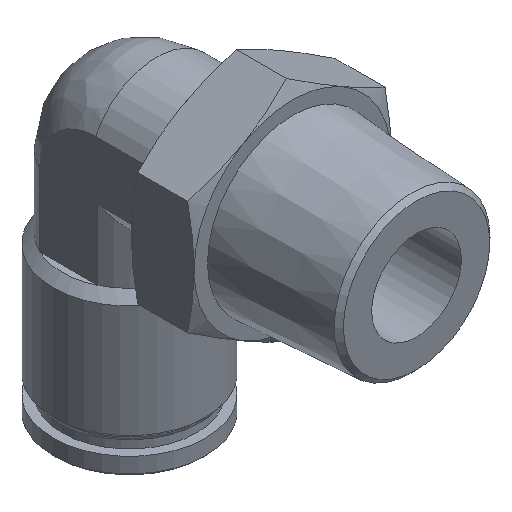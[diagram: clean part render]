
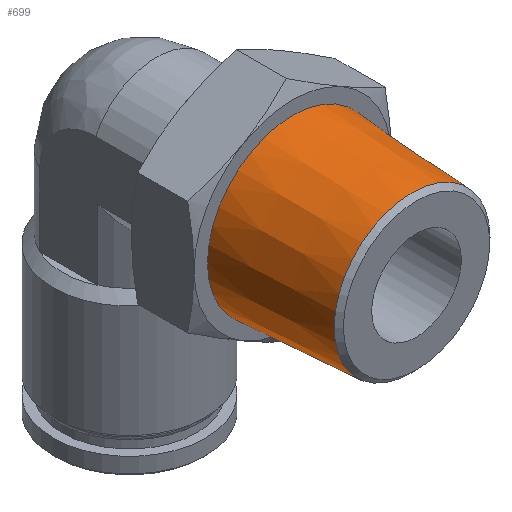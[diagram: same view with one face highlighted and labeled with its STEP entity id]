
A CAD part, isometric view. The second image highlights one B-rep face of the part: STEP entity #699.
In plain terms, the highlighted conical face has half-angle 3.5 degrees and reference radius 9.078 mm.
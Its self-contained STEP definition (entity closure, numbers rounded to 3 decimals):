
#84=FACE_OUTER_BOUND('',#134,.T.);
#134=EDGE_LOOP('',(#476,#477,#478,#479,#480));
#189=LINE('',#1112,#219);
#219=VECTOR('',#885,9.078);
#249=CIRCLE('',#771,8.686);
#250=CIRCLE('',#772,8.686);
#252=CIRCLE('',#776,9.5);
#299=VERTEX_POINT('',#1102);
#300=VERTEX_POINT('',#1104);
#302=VERTEX_POINT('',#1111);
#365=EDGE_CURVE('',#299,#300,#249,.T.);
#366=EDGE_CURVE('',#300,#299,#250,.T.);
#368=EDGE_CURVE('',#300,#302,#189,.T.);
#369=EDGE_CURVE('',#302,#302,#252,.T.);
#476=ORIENTED_EDGE('',*,*,#365,.F.);
#477=ORIENTED_EDGE('',*,*,#366,.F.);
#478=ORIENTED_EDGE('',*,*,#368,.T.);
#479=ORIENTED_EDGE('',*,*,#369,.F.);
#480=ORIENTED_EDGE('',*,*,#368,.F.);
#682=CONICAL_SURFACE('',#775,9.078,0.061);
#699=ADVANCED_FACE('',(#84),#682,.T.);
#771=AXIS2_PLACEMENT_3D('',#1105,#875,#876);
#772=AXIS2_PLACEMENT_3D('',#1106,#877,#878);
#775=AXIS2_PLACEMENT_3D('',#1110,#883,#884);
#776=AXIS2_PLACEMENT_3D('',#1113,#886,#887);
#875=DIRECTION('center_axis',(0.,-1.,0.));
#876=DIRECTION('ref_axis',(0.,0.,1.));
#877=DIRECTION('center_axis',(0.,-1.,0.));
#878=DIRECTION('ref_axis',(0.,0.,1.));
#883=DIRECTION('center_axis',(0.,1.,0.));
#884=DIRECTION('ref_axis',(0.,0.,-1.));
#885=DIRECTION('',(0.,0.998,0.061));
#886=DIRECTION('center_axis',(0.,1.,0.));
#887=DIRECTION('ref_axis',(0.,0.,-1.));
#1102=CARTESIAN_POINT('',(0.,-21.801,-8.686));
#1104=CARTESIAN_POINT('',(0.,-21.801,8.686));
#1105=CARTESIAN_POINT('Origin',(0.,-21.801,
0.));
#1106=CARTESIAN_POINT('Origin',(0.,-21.801,
0.));
#1110=CARTESIAN_POINT('Origin',(0.,-15.4,0.));
#1111=CARTESIAN_POINT('',(0.,-8.5,9.5));
#1112=CARTESIAN_POINT('',(0.,-15.4,9.078));
#1113=CARTESIAN_POINT('Origin',(0.,-8.5,0.));
